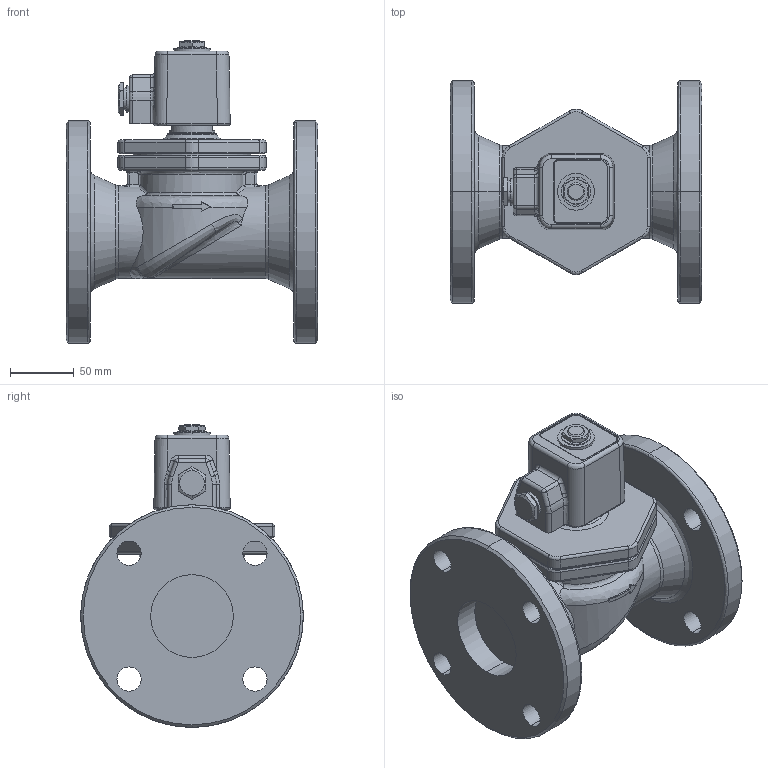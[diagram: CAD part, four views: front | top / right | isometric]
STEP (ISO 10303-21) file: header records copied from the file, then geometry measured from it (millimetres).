
FILE_DESCRIPTION( (''), '2;1');
FILE_NAME ('PC1027.7416.DP-100F　65A_30489.stp','2025-07-28T18:21:34',(''),(''),'spGate 19.8.4 (****-****-****-****)','','');
FILE_SCHEMA (('AUTOMOTIVE_DESIGN'));
Length unit declared in the file: millimetre
Products named in the file (6): Assembly; DP-100F 弁箱 65A; ふた 50A; パイプP 32-65A; コイルＰ 32-65A; プレートP 32-65A
Assembly tree (5 placements, depth 2):
  Assembly
    DP-100F 弁箱 65A
    ふた 50A
    パイプP 32-65A
    コイルＰ 32-65A
    プレートP 32-65A
Bounding box: 198 x 175 x 238 mm (x, y, z)
Volume: 2215313.3 mm3; surface area: 242402 mm2
Topology: 5 solids, 5 shells, 503 faces, 1182 edges, 681 vertices
Faces by surface type: bspline 191, cylinder 171, plane 126, sphere 15
Entity records: 29661 total; most frequent: CARTESIAN_POINT 9947, ORIENTED_EDGE 2302, DIRECTION 1874, COLOUR_RGB 1659, PRESENTATION_STYLE_ASSIGNMENT 1659, STYLED_ITEM 1659, EDGE_CURVE 1151, DRAUGHTING_PRE_DEFINED_CURVE_FONT 1151
